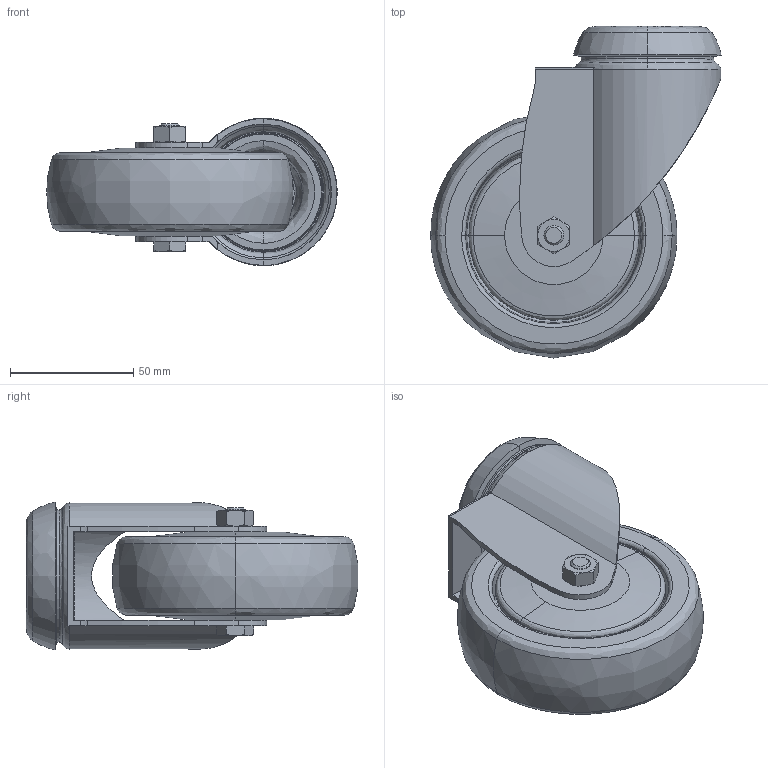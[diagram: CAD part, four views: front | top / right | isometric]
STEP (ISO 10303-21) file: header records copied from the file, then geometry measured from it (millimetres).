
FILE_DESCRIPTION (( 'STEP AP203' ), '1' );
FILE_NAME ('510150_Lenkrolle Ø100 mit Rückenloch Ø11 leitfähig.step', '2022-08-05T12:35:27', ( '' ), ( '' ), 'SwSTEP 2.0', 'SolidWorks 2021', '' );
FILE_SCHEMA (( 'CONFIG_CONTROL_DESIGN' ));
Length unit declared in the file: millimetre
Products named in the file (1): 510150_Lenkrolle Ø100 mit Rückenloch Ø11 leitfähig
Bounding box: 118 x 134.78 x 59.99 mm (x, y, z)
Volume: 247686.8 mm3; surface area: 81338.5 mm2
Topology: 2 solids, 2 shells, 223 faces, 508 edges, 311 vertices
Faces by surface type: bspline 72, cylinder 53, cone 49, plane 49
Entity records: 10144 total; most frequent: CARTESIAN_POINT 5309, ORIENTED_EDGE 1016, DIRECTION 985, EDGE_CURVE 508, AXIS2_PLACEMENT_3D 429, VERTEX_POINT 311, CIRCLE 277, EDGE_LOOP 251
